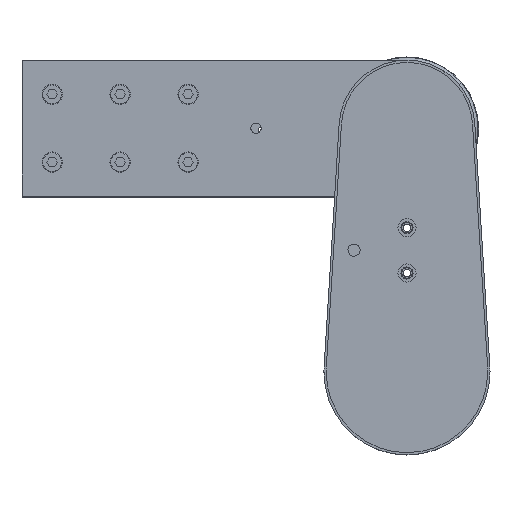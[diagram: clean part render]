
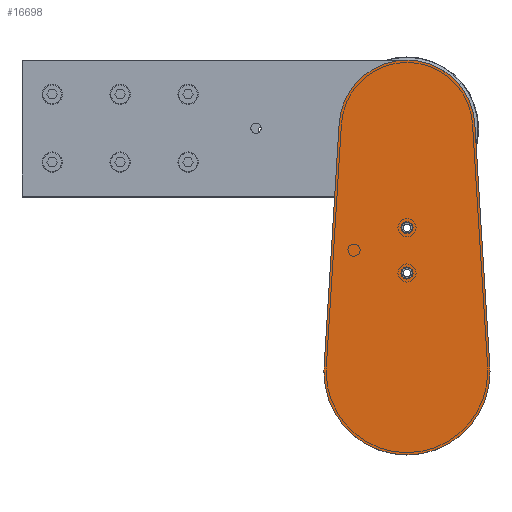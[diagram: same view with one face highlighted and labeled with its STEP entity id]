
A CAD part, top view. The second image highlights one B-rep face of the part: STEP entity #16698.
In plain terms, the highlighted planar face has unit normal (0, 0, 1) as drawn and (0, 0, -1) by its records, which use the part's own axes.
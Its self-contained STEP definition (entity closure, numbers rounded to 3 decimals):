
#1295 = CARTESIAN_POINT ( 'NONE',  ( 0., 95.5, 0. ) ) ;
#1296 = DIRECTION ( 'NONE',  ( 0., 0., -1. ) ) ;
#1297 = DIRECTION ( 'NONE',  ( 1., 0., 0. ) ) ;
#1433 = CARTESIAN_POINT ( 'NONE',  ( 0., 65.5, 0. ) ) ;
#1434 = DIRECTION ( 'NONE',  ( 0., 0., -1. ) ) ;
#1435 = DIRECTION ( 'NONE',  ( 1., 0., 0. ) ) ;
#13803 = CARTESIAN_POINT ( 'NONE',  ( 3.5, 95.5, 0. ) ) ;
#13804 = CARTESIAN_POINT ( 'NONE',  ( -3.5, 95.5, 0. ) ) ;
#13807 = CARTESIAN_POINT ( 'NONE',  ( 3.5, 65.5, 0. ) ) ;
#13808 = CARTESIAN_POINT ( 'NONE',  ( -3.5, 65.5, 0. ) ) ;
#16698 = ADVANCED_FACE ( 'NONE', ( #39695, #39691, #39697 ), #39698, .F. ) ;
#22029 = CARTESIAN_POINT ( 'NONE',  ( 0., 0., 0. ) ) ;
#22030 = DIRECTION ( 'NONE',  ( 0., 0., 1. ) ) ;
#22031 = DIRECTION ( 'NONE',  ( 1., 0., 0. ) ) ;
#22469 = EDGE_CURVE ( 'NONE', #36175, #36169, #53984, .T. ) ;
#22540 = EDGE_CURVE ( 'NONE', #36140, #36138, #83210, .T. ) ;
#22543 = EDGE_CURVE ( 'NONE', #36132, #36130, #83224, .T. ) ;
#22547 = EDGE_CURVE ( 'NONE', #36181, #36175, #83235, .T. ) ;
#22549 = EDGE_CURVE ( 'NONE', #36177, #36181, #82148, .T. ) ;
#22554 = EDGE_CURVE ( 'NONE', #36179, #36177, #83256, .T. ) ;
#22561 = EDGE_CURVE ( 'NONE', #36171, #36179, #82172, .T. ) ;
#22564 = EDGE_CURVE ( 'NONE', #36169, #36171, #83285, .T. ) ;
#22965 = EDGE_CURVE ( 'NONE', #36130, #36132, #84473, .T. ) ;
#23010 = EDGE_CURVE ( 'NONE', #36138, #36140, #84617, .T. ) ;
#24517 = ORIENTED_EDGE ( 'NONE', *, *, #22965, .F. ) ;
#24518 = ORIENTED_EDGE ( 'NONE', *, *, #22543, .F. ) ;
#24519 = ORIENTED_EDGE ( 'NONE', *, *, #23010, .F. ) ;
#24520 = ORIENTED_EDGE ( 'NONE', *, *, #22540, .F. ) ;
#24521 = ORIENTED_EDGE ( 'NONE', *, *, #22554, .F. ) ;
#24522 = ORIENTED_EDGE ( 'NONE', *, *, #22561, .F. ) ;
#24523 = ORIENTED_EDGE ( 'NONE', *, *, #22564, .F. ) ;
#24524 = ORIENTED_EDGE ( 'NONE', *, *, #22469, .F. ) ;
#24525 = ORIENTED_EDGE ( 'NONE', *, *, #22547, .F. ) ;
#24526 = ORIENTED_EDGE ( 'NONE', *, *, #22549, .F. ) ;
#36130 = VERTEX_POINT ( 'NONE', #13803 ) ;
#36132 = VERTEX_POINT ( 'NONE', #13804 ) ;
#36138 = VERTEX_POINT ( 'NONE', #13807 ) ;
#36140 = VERTEX_POINT ( 'NONE', #13808 ) ;
#36169 = VERTEX_POINT ( 'NONE', #46301 ) ;
#36171 = VERTEX_POINT ( 'NONE', #46302 ) ;
#36175 = VERTEX_POINT ( 'NONE', #46304 ) ;
#36177 = VERTEX_POINT ( 'NONE', #46305 ) ;
#36179 = VERTEX_POINT ( 'NONE', #46306 ) ;
#36181 = VERTEX_POINT ( 'NONE', #46307 ) ;
#39690 = DIRECTION ( 'NONE',  ( 0., 0., 1. ) ) ;
#39691 = FACE_BOUND ( 'NONE', #42388, .T. ) ;
#39694 = CARTESIAN_POINT ( 'NONE',  ( 0., 161.5, 0. ) ) ;
#39695 = FACE_BOUND ( 'NONE', #42382, .T. ) ;
#39697 = FACE_OUTER_BOUND ( 'NONE', #42387, .T. ) ;
#39698 = PLANE ( 'NONE',  #40073 ) ;
#39700 = DIRECTION ( 'NONE',  ( 1., 0., 0. ) ) ;
#40073 = AXIS2_PLACEMENT_3D ( 'NONE', #39694, #39690, #39700 ) ;
#42382 = EDGE_LOOP ( 'NONE', ( #24517, #24518 ) ) ;
#42387 = EDGE_LOOP ( 'NONE', ( #24521, #24522, #24523, #24524, #24525, #24526 ) ) ;
#42388 = EDGE_LOOP ( 'NONE', ( #24519, #24520 ) ) ;
#46301 = CARTESIAN_POINT ( 'NONE',  ( 55., 0., 0. ) ) ;
#46302 = CARTESIAN_POINT ( 'NONE',  ( 54.894, 3.406, 0. ) ) ;
#46304 = CARTESIAN_POINT ( 'NONE',  ( -55., 0., 0. ) ) ;
#46305 = CARTESIAN_POINT ( 'NONE',  ( -44.914, 164.286, 0. ) ) ;
#46306 = CARTESIAN_POINT ( 'NONE',  ( 44.914, 164.286, 0. ) ) ;
#46307 = CARTESIAN_POINT ( 'NONE',  ( -54.894, 3.406, 0. ) ) ;
#53984 = CIRCLE ( 'NONE', #53986, 55. ) ;
#53986 = AXIS2_PLACEMENT_3D ( 'NONE', #22029, #22030, #22031 ) ;
#82124 = CARTESIAN_POINT ( 'NONE',  ( 0., 65.5, 0. ) ) ;
#82125 = DIRECTION ( 'NONE',  ( 0., 0., -1. ) ) ;
#82126 = DIRECTION ( 'NONE',  ( 1., 0., 0. ) ) ;
#82138 = CARTESIAN_POINT ( 'NONE',  ( 0., 95.5, 0. ) ) ;
#82139 = DIRECTION ( 'NONE',  ( 0., 0., -1. ) ) ;
#82140 = DIRECTION ( 'NONE',  ( 1., 0., 0. ) ) ;
#82148 = LINE ( 'NONE', #82154, #83239 ) ;
#82150 = CARTESIAN_POINT ( 'NONE',  ( 0., 0., 0. ) ) ;
#82151 = DIRECTION ( 'NONE',  ( 0., 0., 1. ) ) ;
#82152 = DIRECTION ( 'NONE',  ( 1., 0., 0. ) ) ;
#82154 = CARTESIAN_POINT ( 'NONE',  ( -44.914, 164.286, 0. ) ) ;
#82155 = DIRECTION ( 'NONE',  ( -0.062, -0.998, 0. ) ) ;
#82169 = CARTESIAN_POINT ( 'NONE',  ( 0., 161.5, 0. ) ) ;
#82170 = DIRECTION ( 'NONE',  ( 0., 0., 1. ) ) ;
#82171 = DIRECTION ( 'NONE',  ( 1., 0., 0. ) ) ;
#82172 = LINE ( 'NONE', #82181, #83279 ) ;
#82181 = CARTESIAN_POINT ( 'NONE',  ( 44.914, 164.286, 0. ) ) ;
#82190 = DIRECTION ( 'NONE',  ( -0.062, 0.998, 0. ) ) ;
#82194 = CARTESIAN_POINT ( 'NONE',  ( 0., 0., 0. ) ) ;
#82195 = DIRECTION ( 'NONE',  ( 0., 0., 1. ) ) ;
#82196 = DIRECTION ( 'NONE',  ( 1., 0., 0. ) ) ;
#83210 = CIRCLE ( 'NONE', #83217, 3.5 ) ;
#83217 = AXIS2_PLACEMENT_3D ( 'NONE', #82124, #82125, #82126 ) ;
#83224 = CIRCLE ( 'NONE', #83230, 3.5 ) ;
#83230 = AXIS2_PLACEMENT_3D ( 'NONE', #82138, #82139, #82140 ) ;
#83235 = CIRCLE ( 'NONE', #83241, 55. ) ;
#83239 = VECTOR ( 'NONE', #82155, 1000. ) ;
#83241 = AXIS2_PLACEMENT_3D ( 'NONE', #82150, #82151, #82152 ) ;
#83256 = CIRCLE ( 'NONE', #83262, 45. ) ;
#83262 = AXIS2_PLACEMENT_3D ( 'NONE', #82169, #82170, #82171 ) ;
#83279 = VECTOR ( 'NONE', #82190, 1000. ) ;
#83285 = CIRCLE ( 'NONE', #83291, 55. ) ;
#83291 = AXIS2_PLACEMENT_3D ( 'NONE', #82194, #82195, #82196 ) ;
#84473 = CIRCLE ( 'NONE', #84505, 3.5 ) ;
#84505 = AXIS2_PLACEMENT_3D ( 'NONE', #1295, #1296, #1297 ) ;
#84617 = CIRCLE ( 'NONE', #84624, 3.5 ) ;
#84624 = AXIS2_PLACEMENT_3D ( 'NONE', #1433, #1434, #1435 ) ;
